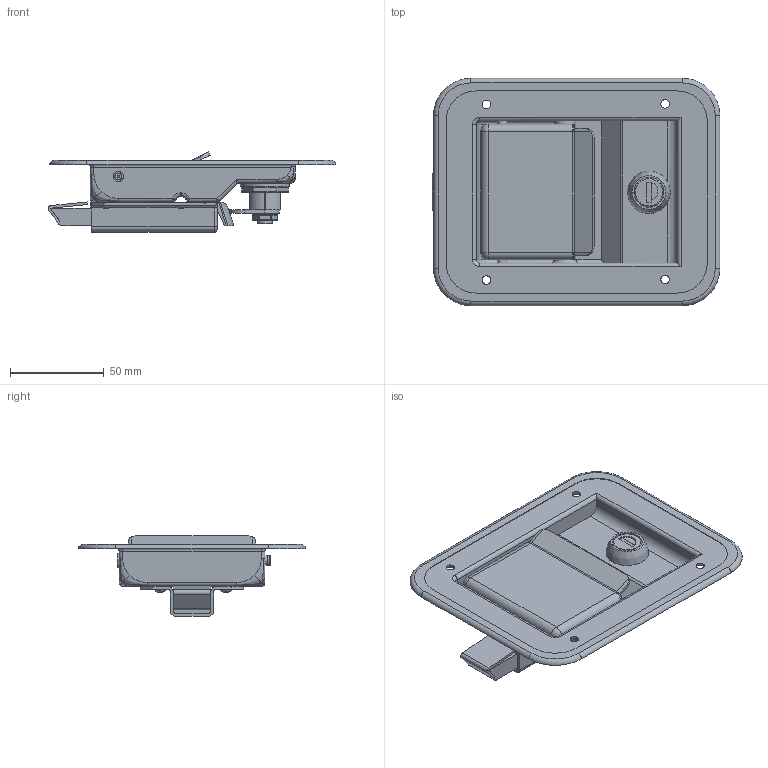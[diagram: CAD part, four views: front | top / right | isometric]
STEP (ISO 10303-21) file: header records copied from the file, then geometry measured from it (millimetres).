
FILE_DESCRIPTION(/* description */ (''),/* implementation_level */ '2;1');
FILE_NAME(/* name */ 'C:\Users\suraj\Desktop\0912-410.stp',/* time_stamp */ '2022-06-28T16:15:38+01:00',/* author */ ('suraj'),/* organization */ (''),/* preprocessor_version */ 'ST-DEVELOPER v18.1',/* originating_system */ 'Autodesk Inventor 2022',/* authorisation */ '');
FILE_SCHEMA (('AUTOMOTIVE_DESIGN { 1 0 10303 214 3 1 1 }'));
Length unit declared in the file: millimetre
Products named in the file (1): 0912-410
Bounding box: 153.75 x 121.5 x 43 mm (x, y, z)
Volume: 85674.6 mm3; surface area: 80493.6 mm2
Topology: 1 solids, 1 shells, 431 faces, 1044 edges, 629 vertices
Faces by surface type: cylinder 170, plane 168, bspline 37, sphere 32, torus 23, cone 1
Full cylindrical faces by diameter (mm): 1 x1, 3.6 x1, 4.5 x4, 5 x4, 5.4 x1, 5.7 x4, 7.9 x1, 8 x1, 13.5 x1, 15.5 x1, 16 x1, 18 x2, 26.3 x1
Entity records: 14527 total; most frequent: CARTESIAN_POINT 3859, DIRECTION 2191, ORIENTED_EDGE 2084, EDGE_CURVE 1042, AXIS2_PLACEMENT_3D 808, VERTEX_POINT 629, LINE 575, VECTOR 575
